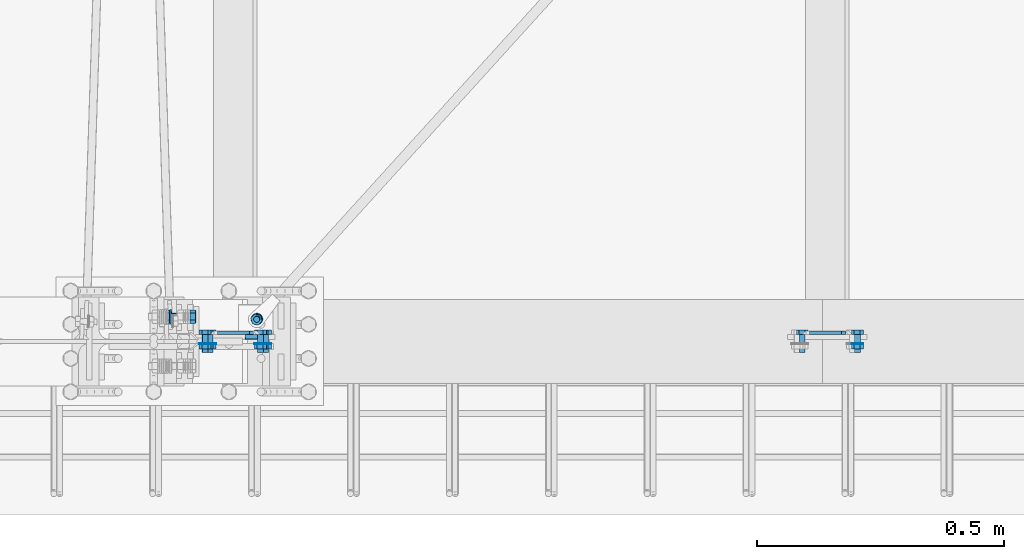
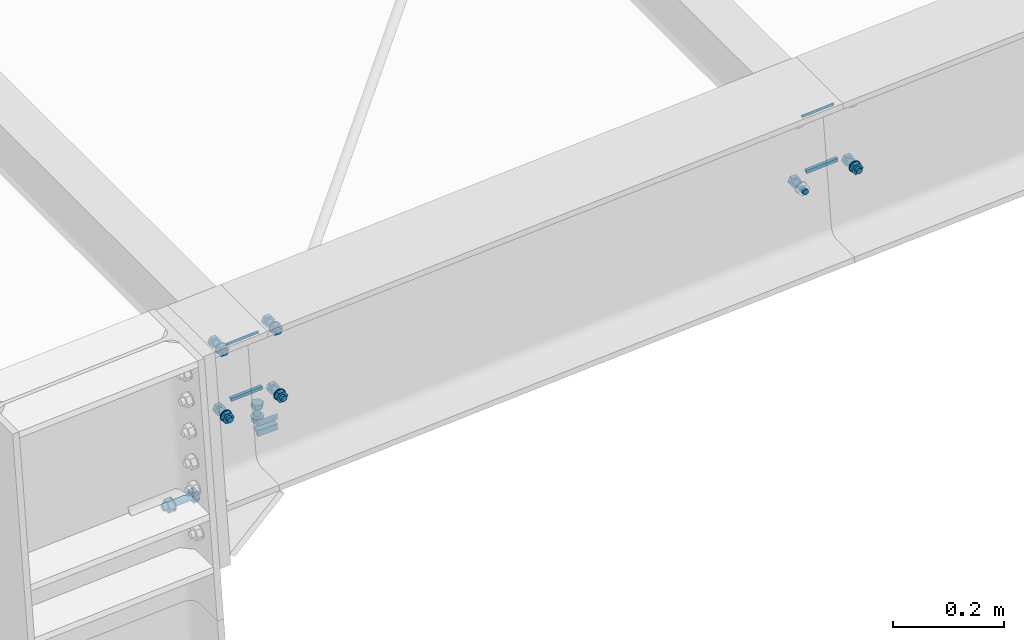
# One storey, part 29 of 72: 30 mechanical fasteners, 10 fasteners.
"""IFC4 building model written with IfcOpenShell, lengths in metres."""

from ifc_helpers import new_model, si_unit, frame, origin_with_axes, place, context, project, spatial, polyline, outline, extrude, type_object, element, save


model = new_model("IFC4")

# Units and contexts
model_context = context("Model", 3, precision=1e-05, world=origin_with_axes())
ifc_project = project(units=[si_unit("LENGTHUNIT", "METRE"), si_unit("AREAUNIT", "SQUARE_METRE"), si_unit("VOLUMEUNIT", "CUBIC_METRE"), si_unit("MASSUNIT", "GRAM", prefix="KILO"), si_unit("TIMEUNIT", "SECOND"), si_unit("PLANEANGLEUNIT", "RADIAN"), si_unit("SOLIDANGLEUNIT", "STERADIAN"), si_unit("THERMODYNAMICTEMPERATUREUNIT", "DEGREE_CELSIUS")], contexts=[model_context])

# Site, building, storey
placement_1 = place(None, origin_with_axes())
site = spatial("IfcSite", under=ifc_project, at=placement_1, Name="Italia", CompositionType="ELEMENT")
building = spatial("IfcBuilding", under=site, at=placement_1, Name="Pensilina", CompositionType="ELEMENT")
storey = spatial("IfcBuildingStorey", under=building, at=placement_1, Name="Storey 0", CompositionType="ELEMENT", Elevation=0.0)

# Mechanical fasteners
mechanical_fastener_type_1 = type_object("IfcMechanicalFastenerType", Name="Collegamento 0101_0201", PredefinedType="BOLT")
placement_2 = place(placement_1, origin_with_axes())
mechanical_fastener_1_placement = place(placement_2, origin_with_axes())
element("IfcMechanicalFastener", 1, at=mechanical_fastener_1_placement, inside=storey, type_object=mechanical_fastener_type_1, Name="Collegamento 0101_0201", NominalDiameter=0.0139999, context=model_context, shape_type="SweptSolid", body=[
    extrude(outline(polyline([(0.0, 0.0, 0.0), (-0.014, 0.0, 0.0), (-0.021, 0.0121245, 0.0), (-0.014, 0.0242486, 0.0), (0.0, 0.0242486, 0.0), (0.007, 0.0121245, 0.0), (0.0, 0.0, 0.0)])), frame((0.930596, 0.057, 3.40757), z_axis=(0.997648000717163, 0.0, 0.068545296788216), x_axis=(0.0, 1.0, 0.0)), (0.0, 0.0, 1.0), 0.0112),
])
mechanical_fastener_type_2 = type_object("IfcMechanicalFastenerType", Name="Collegamento 0101_0201", PredefinedType="BOLT")
mechanical_fastener_2_placement = place(placement_2, origin_with_axes())
element("IfcMechanicalFastener", 2, at=mechanical_fastener_2_placement, inside=storey, type_object=mechanical_fastener_type_2, Name="Collegamento 0101_0201", NominalDiameter=0.014, context=model_context, shape_type="SweptSolid", body=[
    extrude(outline(polyline([(0.0, 0.0, 0.0), (-0.000238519, -0.0018115, 0.0), (-0.000937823, -0.00349998, 0.0), (-0.00205025, -0.00494957, 0.0), (-0.0035, -0.00606203, 0.0), (-0.00518827, -0.00676131, 0.0), (-0.007, -0.00699997, 0.0), (-0.00881173, -0.00676131, 0.0), (-0.0105, -0.00606203, 0.0), (-0.0119497, -0.00494957, 0.0), (-0.0130622, -0.00349998, 0.0), (-0.0137615, -0.0018115, 0.0), (-0.014, 0.0, 0.0), (-0.0137615, 0.00181174, 0.0), (-0.0130622, 0.00350022, 0.0), (-0.0119497, 0.00494981, 0.0), (-0.0105, 0.00606227, 0.0), (-0.00881173, 0.00676155, 0.0), (-0.007, 0.00699997, 0.0), (-0.00518827, 0.00676155, 0.0), (-0.0035, 0.00606227, 0.0), (-0.00205025, 0.00494981, 0.0), (-0.000937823, 0.00350022, 0.0), (-0.000238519, 0.00181174, 0.0), (0.0, 0.0, 0.0)])), frame((0.870405, 0.057, 3.41559), z_axis=(0.997648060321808, 0.0, 0.068544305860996), x_axis=(0.0, 1.0, 0.0)), (0.0, 0.0, 1.0), 0.0595),
])
mechanical_fastener_type_3 = type_object("IfcMechanicalFastenerType", Name="Collegamento 0101_0201", PredefinedType="BOLT")
mechanical_fastener_3_placement = place(placement_2, origin_with_axes())
element("IfcMechanicalFastener", 3, at=mechanical_fastener_3_placement, inside=storey, type_object=mechanical_fastener_type_3, Name="Collegamento 0101_0201", NominalDiameter=0.014, context=model_context, shape_type="SweptSolid", body=[
    extrude(outline(polyline([(0.0, 0.0, 0.0), (-0.014, 0.0, 0.0), (-0.021, 0.0121243, 0.0), (-0.014, 0.0242488, 0.0), (0.0, 0.0242488, 0.0), (0.007, 0.0121243, 0.0), (0.0, 0.0, 0.0)])), frame((0.879017, 0.057, 3.40403), z_axis=(0.997648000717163, 0.0, 0.068545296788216), x_axis=(0.0, 1.0, 0.0)), (0.0, 0.0, 1.0), 0.0112),
])
mechanical_fastener_type_4 = type_object("IfcMechanicalFastenerType", Name="Collegamento 0101_0201", PredefinedType="BOLT")
mechanical_fastener_4_placement = place(placement_2, origin_with_axes())
element("IfcMechanicalFastener", 4, at=mechanical_fastener_4_placement, inside=storey, type_object=mechanical_fastener_type_4, Name="Collegamento 0101_0201", NominalDiameter=0.028, context=model_context, shape_type="SweptSolid", body=[
    extrude(outline(polyline([(0.0, 0.0, 0.0), (-0.000477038, -0.00362349, 0.0), (-0.00187564, -0.00699997, 0.0), (-0.0041005, -0.00989962, 0.0), (-0.007, -0.0121245, 0.0), (-0.0103765, -0.0135231, 0.0), (-0.014, -0.0139999, 0.0), (-0.0176235, -0.0135231, 0.0), (-0.021, -0.0121245, 0.0), (-0.0238995, -0.00989962, 0.0), (-0.0261244, -0.00699997, 0.0), (-0.027523, -0.00362349, 0.0), (-0.028, 0.0, 0.0), (-0.027523, 0.00362349, 0.0), (-0.0261244, 0.00699997, 0.0), (-0.0238995, 0.00989962, 0.0), (-0.021, 0.0121243, 0.0), (-0.0176235, 0.0135229, 0.0), (-0.014, 0.0139999, 0.0), (-0.0103765, 0.0135229, 0.0), (-0.007, 0.0121243, 0.0), (-0.0041005, 0.00989962, 0.0), (-0.00187564, 0.00699997, 0.0), (-0.000477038, 0.00362349, 0.0), (0.0, 0.0, 0.0)])), frame((0.88936, 0.064, 3.41689), z_axis=(0.997648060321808, 0.0, 0.06854435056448), x_axis=(0.0, 1.0, 0.0)), (0.0, 0.0, 1.0), 0.00200003),
])

# Fasteners
fastener_type_1 = type_object("IfcFastenerType", Name="Collegamento 0201_0202", PredefinedType="WELD")
fastener_1_placement = place(placement_2, origin_with_axes())
element("IfcFastener", 5, at=fastener_1_placement, inside=storey, type_object=fastener_type_1, Name="Collegamento 0201_0202", context=model_context, shape_type="SweptSolid", body=[
    extrude(outline(polyline([(0.0, 0.0, 0.0), (0.00717336, -0.00695801, 0.0), (0.0, -0.00695801, 0.0), (0.0, 0.0, 0.0)])), frame((0.98357, 0.01395, 3.76111), z_axis=(0.997731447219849, 0.0, 0.06731989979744), x_axis=(0.0, 1.0, 0.0)), (0.0, 0.0, 1.0), 0.0661),
])
fastener_type_2 = type_object("IfcFastenerType", Name="Collegamento 0201_0202", PredefinedType="WELD")
fastener_2_placement = place(placement_2, origin_with_axes())
element("IfcFastener", 6, at=fastener_2_placement, inside=storey, type_object=fastener_type_2, Name="Collegamento 0201_0202", context=model_context, shape_type="SweptSolid", body=[
    extrude(outline(polyline([(0.0, 0.0, 0.0), (-0.00717336, 0.00695801, 0.0), (0.0, 0.00695801, 0.0), (0.0, 0.0, 0.0)])), frame((1.05853, 0.01395, 3.63205), z_axis=(-0.997731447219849, 0.0, -0.067319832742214), x_axis=(0.0, -1.0, 0.0)), (0.0, 0.0, 1.0), 0.0661),
])
fastener_type_3 = type_object("IfcFastenerType", Name="Collegamento 0201_0202", PredefinedType="WELD")
fastener_3_placement = place(placement_2, origin_with_axes())
element("IfcFastener", 7, at=fastener_3_placement, inside=storey, type_object=fastener_type_3, Name="Collegamento 0201_0202", context=model_context, shape_type="SweptSolid", body=[
    extrude(outline(polyline([(0.0, 0.0, 0.0), (0.00717336, -0.00695801, 0.0), (0.0, -0.00695801, 0.0), (0.0, 0.0, 0.0)])), frame((0.98357, 0.01395, 3.76111), z_axis=(0.997731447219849, 0.0, 0.06731989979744), x_axis=(0.0, 1.0, 0.0)), (0.0, 0.0, 1.0), 0.0661),
])
fastener_type_4 = type_object("IfcFastenerType", Name="Collegamento 0201_0202", PredefinedType="WELD")
fastener_4_placement = place(placement_2, origin_with_axes())
element("IfcFastener", 8, at=fastener_4_placement, inside=storey, type_object=fastener_type_4, Name="Collegamento 0201_0202", context=model_context, shape_type="SweptSolid", body=[
    extrude(outline(polyline([(0.0, 0.0, 0.0), (-0.00717336, 0.00695801, 0.0), (0.0, 0.00695801, 0.0), (0.0, 0.0, 0.0)])), frame((1.05853, 0.01395, 3.63205), z_axis=(-0.997731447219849, 0.0, -0.067319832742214), x_axis=(0.0, -1.0, 0.0)), (0.0, 0.0, 1.0), 0.0661),
])

# Mechanical fasteners
mechanical_fastener_type_5 = type_object("IfcMechanicalFastenerType", Name="Collegamento 0201_0202", PredefinedType="BOLT")
mechanical_fastener_5_placement = place(placement_2, origin_with_axes())
element("IfcMechanicalFastener", 9, at=mechanical_fastener_5_placement, inside=storey, type_object=mechanical_fastener_type_5, Name="Collegamento 0201_0202", NominalDiameter=0.0119999, context=model_context, shape_type="SweptSolid", body=[
    extrude(outline(polyline([(0.0, 0.0, 0.0), (-0.0119728, 0.000807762, 0.0), (-0.0172595, 0.0115805, 0.0), (-0.0105735, 0.0215452, 0.0), (0.00139928, 0.0207374, 0.0), (0.00668609, 0.0099647, 0.0), (0.0, 0.0, 0.0)])), frame((1.07675, 0.014, 3.61375), z_axis=(0.0, 1.0, 0.0), x_axis=(-1.0, 0.0, 0.0)), (0.0, 0.0, 1.0), 0.0096),
])
mechanical_fastener_type_6 = type_object("IfcMechanicalFastenerType", Name="Collegamento 0201_0202", PredefinedType="BOLT")
mechanical_fastener_6_placement = place(placement_2, origin_with_axes())
element("IfcMechanicalFastener", 10, at=mechanical_fastener_6_placement, inside=storey, type_object=mechanical_fastener_type_6, Name="Collegamento 0201_0202", NominalDiameter=0.012, context=model_context, shape_type="SweptSolid", body=[
    extrude(outline(polyline([(0.0, 0.0, 0.0), (-0.000204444, -0.00155282, 0.0), (-0.000803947, -0.00300002, 0.0), (-0.00175738, -0.00424266, 0.0), (-0.00300002, -0.00519609, 0.0), (-0.0044471, -0.00579548, 0.0), (-0.00600004, -0.00600004, 0.0), (-0.00755298, -0.00579548, 0.0), (-0.00900006, -0.00519609, 0.0), (-0.0102427, -0.00424266, 0.0), (-0.0111961, -0.00300002, 0.0), (-0.0117956, -0.00155282, 0.0), (-0.0120001, 0.0, 0.0), (-0.0117956, 0.00155282, 0.0), (-0.0111961, 0.00300002, 0.0), (-0.0102427, 0.00424266, 0.0), (-0.00900006, 0.00519609, 0.0), (-0.00755298, 0.00579548, 0.0), (-0.00600004, 0.00600004, 0.0), (-0.0044471, 0.00579548, 0.0), (-0.00300002, 0.00519609, 0.0), (-0.00175738, 0.00424266, 0.0), (-0.000803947, 0.00300002, 0.0), (-0.000204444, 0.00155282, 0.0), (0.0, 0.0, 0.0)])), frame((1.07604, -0.022, 3.62452), z_axis=(0.0, 1.0, 0.0), x_axis=(-1.0, 0.0, 0.0)), (0.0, 0.0, 1.0), 0.036),
])
mechanical_fastener_type_7 = type_object("IfcMechanicalFastenerType", Name="Collegamento 0201_0202", PredefinedType="BOLT")
mechanical_fastener_7_placement = place(placement_2, origin_with_axes())
element("IfcMechanicalFastener", 11, at=mechanical_fastener_7_placement, inside=storey, type_object=mechanical_fastener_type_7, Name="Collegamento 0201_0202", NominalDiameter=0.0119999, context=model_context, shape_type="SweptSolid", body=[
    extrude(outline(polyline([(0.0, 0.0, 0.0), (-0.0119728, 0.000807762, 0.0), (-0.0172595, 0.0115805, 0.0), (-0.0105735, 0.0215452, 0.0), (0.00139928, 0.0207374, 0.0), (0.00668609, 0.0099647, 0.0), (0.0, 0.0, 0.0)])), frame((1.07675, -0.0156, 3.61375), z_axis=(0.0, 1.0, 0.0), x_axis=(-1.0, 0.0, 0.0)), (0.0, 0.0, 1.0), 0.0096),
])
mechanical_fastener_type_8 = type_object("IfcMechanicalFastenerType", Name="Collegamento 0201_0202", PredefinedType="BOLT")
mechanical_fastener_8_placement = place(placement_2, origin_with_axes())
element("IfcMechanicalFastener", 12, at=mechanical_fastener_8_placement, inside=storey, type_object=mechanical_fastener_type_8, Name="Collegamento 0201_0202", NominalDiameter=0.024, context=model_context, shape_type="SweptSolid", body=[
    extrude(outline(polyline([(0.0, 0.0, 0.0), (-0.000408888, -0.00310588, 0.0), (-0.00160766, -0.00600004, 0.0), (-0.00351465, -0.00848532, 0.0), (-0.00599992, -0.0103922, 0.0), (-0.00889409, -0.0115912, 0.0), (-0.012, -0.0120001, 0.0), (-0.0151058, -0.0115912, 0.0), (-0.018, -0.0103922, 0.0), (-0.0204853, -0.00848532, 0.0), (-0.0223923, -0.00600004, 0.0), (-0.023591, -0.00310588, 0.0), (-0.0239999, 0.0, 0.0), (-0.023591, 0.00310588, 0.0), (-0.0223923, 0.00600004, 0.0), (-0.0204853, 0.00848532, 0.0), (-0.018, 0.0103922, 0.0), (-0.0151058, 0.0115912, 0.0), (-0.012, 0.0120001, 0.0), (-0.00889409, 0.0115912, 0.0), (-0.00599992, 0.0103922, 0.0), (-0.00351465, 0.00848532, 0.0), (-0.00160766, 0.00600004, 0.0), (-0.000408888, 0.00310588, 0.0), (0.0, 0.0, 0.0)])), frame((1.07004, -0.006, 3.62452), z_axis=(0.0, 1.0, 0.0), x_axis=(-1.0, 0.0, 0.0)), (0.0, 0.0, 1.0), 0.002),
])
mechanical_fastener_type_9 = type_object("IfcMechanicalFastenerType", Name="Collegamento 0201_0202", PredefinedType="BOLT")
mechanical_fastener_9_placement = place(placement_2, origin_with_axes())
element("IfcMechanicalFastener", 13, at=mechanical_fastener_9_placement, inside=storey, type_object=mechanical_fastener_type_9, Name="Collegamento 0201_0202", NominalDiameter=0.0119999, context=model_context, shape_type="SweptSolid", body=[
    extrude(outline(polyline([(0.0, 0.0, 0.0), (-0.0119728, 0.000807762, 0.0), (-0.0172596, 0.0115805, 0.0), (-0.0105736, 0.0215452, 0.0), (0.00139916, 0.0207374, 0.0), (0.00668597, 0.0099647, 0.0), (0.0, 0.0, 0.0)])), frame((0.965006, 0.014, 3.60621), z_axis=(0.0, 1.0, 0.0), x_axis=(-1.0, 0.0, 0.0)), (0.0, 0.0, 1.0), 0.0096),
])
mechanical_fastener_type_10 = type_object("IfcMechanicalFastenerType", Name="Collegamento 0201_0202", PredefinedType="BOLT")
mechanical_fastener_10_placement = place(placement_2, origin_with_axes())
element("IfcMechanicalFastener", 14, at=mechanical_fastener_10_placement, inside=storey, type_object=mechanical_fastener_type_10, Name="Collegamento 0201_0202", NominalDiameter=0.012, context=model_context, shape_type="SweptSolid", body=[
    extrude(outline(polyline([(0.0, 0.0, 0.0), (-0.000204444, -0.00155282, 0.0), (-0.000803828, -0.00300002, 0.0), (-0.00175732, -0.00424266, 0.0), (-0.00299996, -0.00519609, 0.0), (-0.00444704, -0.00579548, 0.0), (-0.00599998, -0.00600004, 0.0), (-0.00755292, -0.00579548, 0.0), (-0.009, -0.00519609, 0.0), (-0.0102426, -0.00424266, 0.0), (-0.0111961, -0.00300002, 0.0), (-0.0117955, -0.00155282, 0.0), (-0.012, 0.0, 0.0), (-0.0117955, 0.00155282, 0.0), (-0.0111961, 0.00300002, 0.0), (-0.0102426, 0.00424266, 0.0), (-0.009, 0.00519609, 0.0), (-0.00755292, 0.00579548, 0.0), (-0.00599998, 0.00600004, 0.0), (-0.00444704, 0.00579548, 0.0), (-0.00299996, 0.00519609, 0.0), (-0.00175732, 0.00424266, 0.0), (-0.000803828, 0.00300002, 0.0), (-0.000204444, 0.00155282, 0.0), (0.0, 0.0, 0.0)])), frame((0.964293, -0.022, 3.61698), z_axis=(0.0, 1.0, 0.0), x_axis=(-1.0, 0.0, 0.0)), (0.0, 0.0, 1.0), 0.036),
])
mechanical_fastener_type_11 = type_object("IfcMechanicalFastenerType", Name="Collegamento 0201_0202", PredefinedType="BOLT")
mechanical_fastener_11_placement = place(placement_2, origin_with_axes())
element("IfcMechanicalFastener", 15, at=mechanical_fastener_11_placement, inside=storey, type_object=mechanical_fastener_type_11, Name="Collegamento 0201_0202", NominalDiameter=0.0119999, context=model_context, shape_type="SweptSolid", body=[
    extrude(outline(polyline([(0.0, 0.0, 0.0), (-0.0119728, 0.000807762, 0.0), (-0.0172596, 0.0115805, 0.0), (-0.0105736, 0.0215452, 0.0), (0.00139916, 0.0207374, 0.0), (0.00668597, 0.0099647, 0.0), (0.0, 0.0, 0.0)])), frame((0.965006, -0.0156, 3.60621), z_axis=(0.0, 1.0, 0.0), x_axis=(-1.0, 0.0, 0.0)), (0.0, 0.0, 1.0), 0.0096),
])
mechanical_fastener_type_12 = type_object("IfcMechanicalFastenerType", Name="Collegamento 0201_0202", PredefinedType="BOLT")
mechanical_fastener_12_placement = place(placement_2, origin_with_axes())
element("IfcMechanicalFastener", 16, at=mechanical_fastener_12_placement, inside=storey, type_object=mechanical_fastener_type_12, Name="Collegamento 0201_0202", NominalDiameter=0.024, context=model_context, shape_type="SweptSolid", body=[
    extrude(outline(polyline([(0.0, 0.0, 0.0), (-0.000408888, -0.00310588, 0.0), (-0.00160772, -0.00600004, 0.0), (-0.00351477, -0.00848532, 0.0), (-0.00600004, -0.0103922, 0.0), (-0.00889421, -0.0115912, 0.0), (-0.012, -0.0120001, 0.0), (-0.0151058, -0.0115912, 0.0), (-0.018, -0.0103922, 0.0), (-0.0204853, -0.00848532, 0.0), (-0.0223923, -0.00600004, 0.0), (-0.0235912, -0.00310588, 0.0), (-0.024, 0.0, 0.0), (-0.0235912, 0.00310588, 0.0), (-0.0223923, 0.00600004, 0.0), (-0.0204853, 0.00848532, 0.0), (-0.018, 0.0103922, 0.0), (-0.0151058, 0.0115912, 0.0), (-0.012, 0.0120001, 0.0), (-0.00889421, 0.0115912, 0.0), (-0.00600004, 0.0103922, 0.0), (-0.00351477, 0.00848532, 0.0), (-0.00160772, 0.00600004, 0.0), (-0.000408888, 0.00310588, 0.0), (0.0, 0.0, 0.0)])), frame((0.958293, -0.006, 3.61698), z_axis=(0.0, 1.0, 0.0), x_axis=(-1.0, 0.0, 0.0)), (0.0, 0.0, 1.0), 0.002),
])
mechanical_fastener_type_13 = type_object("IfcMechanicalFastenerType", Name="Collegamento 0201_0202", PredefinedType="BOLT")
mechanical_fastener_13_placement = place(placement_2, origin_with_axes())
element("IfcMechanicalFastener", 17, at=mechanical_fastener_13_placement, inside=storey, type_object=mechanical_fastener_type_13, Name="Collegamento 0201_0202", NominalDiameter=0.0119999, context=model_context, shape_type="SweptSolid", body=[
    extrude(outline(polyline([(0.0, 0.0, 0.0), (-0.0119728, 0.000807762, 0.0), (-0.0172595, 0.0115805, 0.0), (-0.0105735, 0.0215452, 0.0), (0.00139928, 0.0207374, 0.0), (0.00668609, 0.0099647, 0.0), (0.0, 0.0, 0.0)])), frame((1.06652, 0.014, 3.7654), z_axis=(0.0, 1.0, 0.0), x_axis=(-1.0, 0.0, 0.0)), (0.0, 0.0, 1.0), 0.0096),
])
mechanical_fastener_type_14 = type_object("IfcMechanicalFastenerType", Name="Collegamento 0201_0202", PredefinedType="BOLT")
mechanical_fastener_14_placement = place(placement_2, origin_with_axes())
element("IfcMechanicalFastener", 18, at=mechanical_fastener_14_placement, inside=storey, type_object=mechanical_fastener_type_14, Name="Collegamento 0201_0202", NominalDiameter=0.012, context=model_context, shape_type="SweptSolid", body=[
    extrude(outline(polyline([(0.0, 0.0, 0.0), (-0.000204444, -0.00155282, 0.0), (-0.000803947, -0.00300002, 0.0), (-0.00175738, -0.00424266, 0.0), (-0.00300002, -0.00519609, 0.0), (-0.0044471, -0.00579548, 0.0), (-0.00600004, -0.00600004, 0.0), (-0.00755298, -0.00579548, 0.0), (-0.00900006, -0.00519609, 0.0), (-0.0102427, -0.00424266, 0.0), (-0.0111961, -0.00300002, 0.0), (-0.0117956, -0.00155282, 0.0), (-0.0120001, 0.0, 0.0), (-0.0117956, 0.00155282, 0.0), (-0.0111961, 0.00300002, 0.0), (-0.0102427, 0.00424266, 0.0), (-0.00900006, 0.00519609, 0.0), (-0.00755298, 0.00579548, 0.0), (-0.00600004, 0.00600004, 0.0), (-0.0044471, 0.00579548, 0.0), (-0.00300002, 0.00519609, 0.0), (-0.00175738, 0.00424266, 0.0), (-0.000803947, 0.00300002, 0.0), (-0.000204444, 0.00155282, 0.0), (0.0, 0.0, 0.0)])), frame((1.06581, -0.022, 3.77618), z_axis=(0.0, 1.0, 0.0), x_axis=(-1.0, 0.0, 0.0)), (0.0, 0.0, 1.0), 0.036),
])
mechanical_fastener_type_15 = type_object("IfcMechanicalFastenerType", Name="Collegamento 0201_0202", PredefinedType="BOLT")
mechanical_fastener_15_placement = place(placement_2, origin_with_axes())
element("IfcMechanicalFastener", 19, at=mechanical_fastener_15_placement, inside=storey, type_object=mechanical_fastener_type_15, Name="Collegamento 0201_0202", NominalDiameter=0.0119999, context=model_context, shape_type="SweptSolid", body=[
    extrude(outline(polyline([(0.0, 0.0, 0.0), (-0.0119728, 0.000807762, 0.0), (-0.0172595, 0.0115805, 0.0), (-0.0105735, 0.0215452, 0.0), (0.00139928, 0.0207374, 0.0), (0.00668609, 0.0099647, 0.0), (0.0, 0.0, 0.0)])), frame((1.06652, -0.0156, 3.7654), z_axis=(0.0, 1.0, 0.0), x_axis=(-1.0, 0.0, 0.0)), (0.0, 0.0, 1.0), 0.0096),
])
mechanical_fastener_type_16 = type_object("IfcMechanicalFastenerType", Name="Collegamento 0201_0202", PredefinedType="BOLT")
mechanical_fastener_16_placement = place(placement_2, origin_with_axes())
element("IfcMechanicalFastener", 20, at=mechanical_fastener_16_placement, inside=storey, type_object=mechanical_fastener_type_16, Name="Collegamento 0201_0202", NominalDiameter=0.024, context=model_context, shape_type="SweptSolid", body=[
    extrude(outline(polyline([(0.0, 0.0, 0.0), (-0.000408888, -0.00310588, 0.0), (-0.00160766, -0.00600004, 0.0), (-0.00351465, -0.00848532, 0.0), (-0.00599992, -0.0103922, 0.0), (-0.00889409, -0.0115912, 0.0), (-0.012, -0.0120001, 0.0), (-0.0151058, -0.0115912, 0.0), (-0.018, -0.0103922, 0.0), (-0.0204853, -0.00848532, 0.0), (-0.0223923, -0.00600004, 0.0), (-0.023591, -0.00310588, 0.0), (-0.0239999, 0.0, 0.0), (-0.023591, 0.00310588, 0.0), (-0.0223923, 0.00600004, 0.0), (-0.0204853, 0.00848532, 0.0), (-0.018, 0.0103922, 0.0), (-0.0151058, 0.0115912, 0.0), (-0.012, 0.0120001, 0.0), (-0.00889409, 0.0115912, 0.0), (-0.00599992, 0.0103922, 0.0), (-0.00351465, 0.00848532, 0.0), (-0.00160766, 0.00600004, 0.0), (-0.000408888, 0.00310588, 0.0), (0.0, 0.0, 0.0)])), frame((1.05981, -0.006, 3.77618), z_axis=(0.0, 1.0, 0.0), x_axis=(-1.0, 0.0, 0.0)), (0.0, 0.0, 1.0), 0.002),
])
mechanical_fastener_type_17 = type_object("IfcMechanicalFastenerType", Name="Collegamento 0201_0202", PredefinedType="BOLT")
mechanical_fastener_17_placement = place(placement_2, origin_with_axes())
element("IfcMechanicalFastener", 21, at=mechanical_fastener_17_placement, inside=storey, type_object=mechanical_fastener_type_17, Name="Collegamento 0201_0202", NominalDiameter=0.0119999, context=model_context, shape_type="SweptSolid", body=[
    extrude(outline(polyline([(0.0, 0.0, 0.0), (-0.0119728, 0.000807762, 0.0), (-0.0172596, 0.0115805, 0.0), (-0.0105736, 0.0215452, 0.0), (0.00139916, 0.0207374, 0.0), (0.00668597, 0.0099647, 0.0), (0.0, 0.0, 0.0)])), frame((0.954773, 0.014, 3.75786), z_axis=(0.0, 1.0, 0.0), x_axis=(-1.0, 0.0, 0.0)), (0.0, 0.0, 1.0), 0.0096),
])
mechanical_fastener_type_18 = type_object("IfcMechanicalFastenerType", Name="Collegamento 0201_0202", PredefinedType="BOLT")
mechanical_fastener_18_placement = place(placement_2, origin_with_axes())
element("IfcMechanicalFastener", 22, at=mechanical_fastener_18_placement, inside=storey, type_object=mechanical_fastener_type_18, Name="Collegamento 0201_0202", NominalDiameter=0.012, context=model_context, shape_type="SweptSolid", body=[
    extrude(outline(polyline([(0.0, 0.0, 0.0), (-0.000204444, -0.00155282, 0.0), (-0.000803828, -0.00300002, 0.0), (-0.00175732, -0.00424266, 0.0), (-0.00299996, -0.00519609, 0.0), (-0.00444704, -0.00579548, 0.0), (-0.00599998, -0.00600004, 0.0), (-0.00755292, -0.00579548, 0.0), (-0.009, -0.00519609, 0.0), (-0.0102426, -0.00424266, 0.0), (-0.0111961, -0.00300002, 0.0), (-0.0117955, -0.00155282, 0.0), (-0.012, 0.0, 0.0), (-0.0117955, 0.00155282, 0.0), (-0.0111961, 0.00300002, 0.0), (-0.0102426, 0.00424266, 0.0), (-0.009, 0.00519609, 0.0), (-0.00755292, 0.00579548, 0.0), (-0.00599998, 0.00600004, 0.0), (-0.00444704, 0.00579548, 0.0), (-0.00299996, 0.00519609, 0.0), (-0.00175732, 0.00424266, 0.0), (-0.000803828, 0.00300002, 0.0), (-0.000204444, 0.00155282, 0.0), (0.0, 0.0, 0.0)])), frame((0.95406, -0.022, 3.76864), z_axis=(0.0, 1.0, 0.0), x_axis=(-1.0, 0.0, 0.0)), (0.0, 0.0, 1.0), 0.036),
])
mechanical_fastener_type_19 = type_object("IfcMechanicalFastenerType", Name="Collegamento 0201_0202", PredefinedType="BOLT")
mechanical_fastener_19_placement = place(placement_2, origin_with_axes())
element("IfcMechanicalFastener", 23, at=mechanical_fastener_19_placement, inside=storey, type_object=mechanical_fastener_type_19, Name="Collegamento 0201_0202", NominalDiameter=0.0119999, context=model_context, shape_type="SweptSolid", body=[
    extrude(outline(polyline([(0.0, 0.0, 0.0), (-0.0119728, 0.000807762, 0.0), (-0.0172596, 0.0115805, 0.0), (-0.0105736, 0.0215452, 0.0), (0.00139916, 0.0207374, 0.0), (0.00668597, 0.0099647, 0.0), (0.0, 0.0, 0.0)])), frame((0.954773, -0.0156, 3.75786), z_axis=(0.0, 1.0, 0.0), x_axis=(-1.0, 0.0, 0.0)), (0.0, 0.0, 1.0), 0.0096),
])
mechanical_fastener_type_20 = type_object("IfcMechanicalFastenerType", Name="Collegamento 0201_0202", PredefinedType="BOLT")
mechanical_fastener_20_placement = place(placement_2, origin_with_axes())
element("IfcMechanicalFastener", 24, at=mechanical_fastener_20_placement, inside=storey, type_object=mechanical_fastener_type_20, Name="Collegamento 0201_0202", NominalDiameter=0.024, context=model_context, shape_type="SweptSolid", body=[
    extrude(outline(polyline([(0.0, 0.0, 0.0), (-0.000408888, -0.00310588, 0.0), (-0.00160772, -0.00600004, 0.0), (-0.00351477, -0.00848532, 0.0), (-0.00600004, -0.0103922, 0.0), (-0.00889421, -0.0115912, 0.0), (-0.012, -0.0120001, 0.0), (-0.0151058, -0.0115912, 0.0), (-0.018, -0.0103922, 0.0), (-0.0204853, -0.00848532, 0.0), (-0.0223923, -0.00600004, 0.0), (-0.0235912, -0.00310588, 0.0), (-0.024, 0.0, 0.0), (-0.0235912, 0.00310588, 0.0), (-0.0223923, 0.00600004, 0.0), (-0.0204853, 0.00848532, 0.0), (-0.018, 0.0103922, 0.0), (-0.0151058, 0.0115912, 0.0), (-0.012, 0.0120001, 0.0), (-0.00889421, 0.0115912, 0.0), (-0.00600004, 0.0103922, 0.0), (-0.00351477, 0.00848532, 0.0), (-0.00160772, 0.00600004, 0.0), (-0.000408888, 0.00310588, 0.0), (0.0, 0.0, 0.0)])), frame((0.94806, -0.006, 3.76864), z_axis=(0.0, 1.0, 0.0), x_axis=(-1.0, 0.0, 0.0)), (0.0, 0.0, 1.0), 0.002),
])
mechanical_fastener_type_21 = type_object("IfcMechanicalFastenerType", Name="Collegamento 0201_0602", PredefinedType="BOLT")
mechanical_fastener_21_placement = place(placement_2, origin_with_axes())
element("IfcMechanicalFastener", 25, at=mechanical_fastener_21_placement, inside=storey, type_object=mechanical_fastener_type_21, Name="Collegamento 0201_0602", NominalDiameter=0.012, context=model_context, shape_type="SweptSolid", body=[
    extrude(outline(polyline([(0.0, 0.0, 0.0), (-8.34465e-07, -0.012, 0.0), (0.0103909, -0.0180008, 0.0), (0.0207838, -0.0120015, 0.0), (0.0207846, -1.60933e-06, 0.0), (0.0103928, 0.00599927, 0.0), (0.0, 0.0, 0.0)])), frame((1.06045, 0.055947, 3.57463), z_axis=(-0.030969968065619, -0.034152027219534, 0.998936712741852), x_axis=(0.740774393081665, -0.671753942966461, 0.0)), (0.0, 0.0, 1.0), 0.00959988),
])
mechanical_fastener_type_22 = type_object("IfcMechanicalFastenerType", Name="Collegamento 0201_0602", PredefinedType="BOLT")
mechanical_fastener_22_placement = place(placement_2, origin_with_axes())
element("IfcMechanicalFastener", 26, at=mechanical_fastener_22_placement, inside=storey, type_object=mechanical_fastener_type_22, Name="Collegamento 0201_0602", NominalDiameter=0.012, context=model_context, shape_type="SweptSolid", body=[
    extrude(outline(polyline([(0.0, 0.0, 0.0), (-0.000204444, -0.00155288, 0.0), (-0.000803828, -0.00299996, 0.0), (-0.00175732, -0.0042426, 0.0), (-0.00300008, -0.00519621, 0.0), (-0.0044471, -0.0057956, 0.0), (-0.00599998, -0.00599998, 0.0), (-0.00755292, -0.0057956, 0.0), (-0.009, -0.00519609, 0.0), (-0.0102426, -0.0042426, 0.0), (-0.0111961, -0.00300002, 0.0), (-0.0117955, -0.00155288, 0.0), (-0.012, 0.0, 0.0), (-0.0117956, 0.00155288, 0.0), (-0.0111962, 0.00300002, 0.0), (-0.0102427, 0.0042426, 0.0), (-0.00899994, 0.00519621, 0.0), (-0.00755292, 0.0057956, 0.0), (-0.00600004, 0.00599998, 0.0), (-0.0044471, 0.0057956, 0.0), (-0.00300008, 0.00519609, 0.0), (-0.00175738, 0.0042426, 0.0), (-0.000803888, 0.00300002, 0.0), (-0.000204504, 0.00155288, 0.0), (0.0, 0.0, 0.0)])), frame((1.06975, 0.0417928, 3.53639), z_axis=(-0.03097246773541, -0.034151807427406, 0.998936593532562), x_axis=(0.74074524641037, -0.671786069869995, 0.0)), (0.0, 0.0, 1.0), 0.038),
])
mechanical_fastener_type_23 = type_object("IfcMechanicalFastenerType", Name="Collegamento 0201_0602", PredefinedType="BOLT")
mechanical_fastener_23_placement = place(placement_2, origin_with_axes())
element("IfcMechanicalFastener", 27, at=mechanical_fastener_23_placement, inside=storey, type_object=mechanical_fastener_type_23, Name="Collegamento 0201_0602", NominalDiameter=0.012, context=model_context, shape_type="SweptSolid", body=[
    extrude(outline(polyline([(0.0, 0.0, 0.0), (1.49012e-06, -0.012, 0.0), (0.0103945, -0.0179987, 0.0), (0.020786, -0.0119975, 0.0), (0.0207846, 2.6226e-06, 0.0), (0.0103915, 0.00600129, 0.0), (0.0, 0.0, 0.0)])), frame((1.06143, 0.0570262, 3.54306), z_axis=(-0.030982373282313, -0.034152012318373, 0.998936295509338), x_axis=(0.740640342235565, -0.671901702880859, 0.0)), (0.0, 0.0, 1.0), 0.00959988),
])
mechanical_fastener_type_24 = type_object("IfcMechanicalFastenerType", Name="Collegamento 0201_0602", PredefinedType="BOLT")
mechanical_fastener_24_placement = place(placement_2, origin_with_axes())
element("IfcMechanicalFastener", 28, at=mechanical_fastener_24_placement, inside=storey, type_object=mechanical_fastener_type_24, Name="Collegamento 0201_0602", NominalDiameter=0.024, context=model_context, shape_type="SweptSolid", body=[
    extrude(outline(polyline([(0.0, 0.0, 0.0), (-0.000408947, -0.00310582, 0.0), (-0.00160772, -0.00599998, 0.0), (-0.00351465, -0.0084852, 0.0), (-0.00599998, -0.0103922, 0.0), (-0.00889415, -0.0115911, 0.0), (-0.012, -0.012, 0.0), (-0.0151058, -0.0115911, 0.0), (-0.018, -0.0103923, 0.0), (-0.0204853, -0.00848526, 0.0), (-0.0223923, -0.00599992, 0.0), (-0.0235911, -0.00310582, 0.0), (-0.0239999, 0.0, 0.0), (-0.023591, 0.00310588, 0.0), (-0.0223923, 0.00600004, 0.0), (-0.0204853, 0.00848526, 0.0), (-0.018, 0.0103923, 0.0), (-0.0151058, 0.0115911, 0.0), (-0.012, 0.012, 0.0), (-0.00889421, 0.0115911, 0.0), (-0.00599998, 0.0103924, 0.0), (-0.00351471, 0.00848532, 0.0), (-0.00160772, 0.00599998, 0.0), (-0.000408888, 0.00310588, 0.0), (0.0, 0.0, 0.0)])), frame((1.0737, 0.0372212, 3.55238), z_axis=(-0.030937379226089, -0.034156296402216, 0.998937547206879), x_axis=(0.741167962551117, -0.671319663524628, 0.0)), (0.0, 0.0, 1.0), 0.00199983),
])

# Fasteners
fastener_type_5 = type_object("IfcFastenerType", Name="Collegamento 0201_0602", PredefinedType="WELD")
fastener_5_placement = place(placement_2, origin_with_axes())
element("IfcFastener", 29, at=fastener_5_placement, inside=storey, type_object=fastener_type_5, Name="Collegamento 0201_0602", context=model_context, shape_type="SweptSolid", body=[
    extrude(outline(polyline([(0.0, 0.0, 0.0), (-0.0136956, 0.0142241, 0.0), (0.000469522, 0.0137401, 0.0), (0.0, 0.0, 0.0)])), frame((1.08428, 0.00493012, 3.53989), z_axis=(-0.99951958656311, -3.31823e-08, -0.030994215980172), x_axis=(3.3198248e-08, -1.0, 0.0)), (0.0, 0.0, 1.0), 0.0421003),
])
fastener_type_6 = type_object("IfcFastenerType", Name="Collegamento 0201_0602", PredefinedType="WELD")
fastener_6_placement = place(placement_2, origin_with_axes())
element("IfcFastener", 30, at=fastener_6_placement, inside=storey, type_object=fastener_type_6, Name="Collegamento 0201_0602", context=model_context, shape_type="SweptSolid", body=[
    extrude(outline(polyline([(0.0, 0.0, 0.0), (0.0146346, -0.0132563, 0.0), (0.000469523, -0.0137403, 0.0), (0.0, 0.0, 0.0)])), frame((1.04104, 0.00365298, 3.57594), z_axis=(0.999519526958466, -1.54852486e-07, 0.03099456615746), x_axis=(1.54926923e-07, 1.0, 0.0)), (0.0, 0.0, 1.0), 0.0420998),
])
fastener_type_7 = type_object("IfcFastenerType", Name="Collegamento 0301_0302", PredefinedType="WELD")
fastener_7_placement = place(placement_2, origin_with_axes())
element("IfcFastener", 31, at=fastener_7_placement, inside=storey, type_object=fastener_type_7, Name="Collegamento 0301_0302", context=model_context, shape_type="SweptSolid", body=[
    extrude(outline(polyline([(0.0, 0.0, 0.0), (0.00717336, -0.00695801, 0.0), (0.0, -0.00695801, 0.0), (0.0, 0.0, 0.0)])), frame((2.18079, 0.01395, 3.84336), z_axis=(0.997731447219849, 0.0, 0.067319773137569), x_axis=(0.0, 1.0, 0.0)), (0.0, 0.0, 1.0), 0.0661001),
])
fastener_type_8 = type_object("IfcFastenerType", Name="Collegamento 0301_0302", PredefinedType="WELD")
fastener_8_placement = place(placement_2, origin_with_axes())
element("IfcFastener", 32, at=fastener_8_placement, inside=storey, type_object=fastener_type_8, Name="Collegamento 0301_0302", context=model_context, shape_type="SweptSolid", body=[
    extrude(outline(polyline([(0.0, 0.0, 0.0), (-0.00717336, 0.00695801, 0.0), (0.0, 0.00695801, 0.0), (0.0, 0.0, 0.0)])), frame((2.25575, 0.01395, 3.7143), z_axis=(-0.997731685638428, 0.0, -0.067316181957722), x_axis=(0.0, -1.0, 0.0)), (0.0, 0.0, 1.0), 0.0661001),
])
fastener_type_9 = type_object("IfcFastenerType", Name="Collegamento 0301_0302", PredefinedType="WELD")
fastener_9_placement = place(placement_2, origin_with_axes())
element("IfcFastener", 33, at=fastener_9_placement, inside=storey, type_object=fastener_type_9, Name="Collegamento 0301_0302", context=model_context, shape_type="SweptSolid", body=[
    extrude(outline(polyline([(0.0, 0.0, 0.0), (0.00717336, -0.00695801, 0.0), (0.0, -0.00695801, 0.0), (0.0, 0.0, 0.0)])), frame((2.18079, 0.01395, 3.84336), z_axis=(0.997731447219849, 0.0, 0.067319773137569), x_axis=(0.0, 1.0, 0.0)), (0.0, 0.0, 1.0), 0.0661001),
])
fastener_type_10 = type_object("IfcFastenerType", Name="Collegamento 0301_0302", PredefinedType="WELD")
fastener_10_placement = place(placement_2, origin_with_axes())
element("IfcFastener", 34, at=fastener_10_placement, inside=storey, type_object=fastener_type_10, Name="Collegamento 0301_0302", context=model_context, shape_type="SweptSolid", body=[
    extrude(outline(polyline([(0.0, 0.0, 0.0), (-0.00717336, 0.00695801, 0.0), (0.0, 0.00695801, 0.0), (0.0, 0.0, 0.0)])), frame((2.25575, 0.01395, 3.7143), z_axis=(-0.997731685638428, 0.0, -0.067316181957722), x_axis=(0.0, -1.0, 0.0)), (0.0, 0.0, 1.0), 0.0661001),
])

# Mechanical fasteners
mechanical_fastener_type_25 = type_object("IfcMechanicalFastenerType", Name="Collegamento 0301_0302", PredefinedType="BOLT")
mechanical_fastener_25_placement = place(placement_2, origin_with_axes())
element("IfcMechanicalFastener", 35, at=mechanical_fastener_25_placement, inside=storey, type_object=mechanical_fastener_type_25, Name="Collegamento 0301_0302", NominalDiameter=0.0119999, context=model_context, shape_type="SweptSolid", body=[
    extrude(outline(polyline([(0.0, 0.0, 0.0), (-0.0119729, 0.000807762, 0.0), (-0.0172596, 0.0115805, 0.0), (-0.0105736, 0.0215454, 0.0), (0.00139904, 0.0207374, 0.0), (0.00668597, 0.00996494, 0.0), (0.0, 0.0, 0.0)])), frame((2.27397, 0.014, 3.696), z_axis=(0.0, 1.0, 0.0), x_axis=(-1.0, 0.0, 0.0)), (0.0, 0.0, 1.0), 0.0096),
])
mechanical_fastener_type_26 = type_object("IfcMechanicalFastenerType", Name="Collegamento 0301_0302", PredefinedType="BOLT")
mechanical_fastener_26_placement = place(placement_2, origin_with_axes())
element("IfcMechanicalFastener", 36, at=mechanical_fastener_26_placement, inside=storey, type_object=mechanical_fastener_type_26, Name="Collegamento 0301_0302", NominalDiameter=0.012, context=model_context, shape_type="SweptSolid", body=[
    extrude(outline(polyline([(0.0, 0.0, 0.0), (-0.000204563, -0.00155282, 0.0), (-0.000803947, -0.00300002, 0.0), (-0.00175738, -0.00424266, 0.0), (-0.00300002, -0.00519609, 0.0), (-0.00444722, -0.00579548, 0.0), (-0.00600004, -0.00600004, 0.0), (-0.00755286, -0.00579548, 0.0), (-0.00900006, -0.00519609, 0.0), (-0.0102427, -0.00424266, 0.0), (-0.0111961, -0.00300002, 0.0), (-0.0117955, -0.00155282, 0.0), (-0.0120001, 0.0, 0.0), (-0.0117955, 0.00155282, 0.0), (-0.0111961, 0.00300002, 0.0), (-0.0102427, 0.00424266, 0.0), (-0.00900006, 0.00519609, 0.0), (-0.00755286, 0.00579548, 0.0), (-0.00600004, 0.00600004, 0.0), (-0.00444722, 0.00579548, 0.0), (-0.00300002, 0.00519609, 0.0), (-0.00175738, 0.00424266, 0.0), (-0.000803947, 0.00300002, 0.0), (-0.000204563, 0.00155282, 0.0), (0.0, 0.0, 0.0)])), frame((2.27326, -0.022, 3.70677), z_axis=(0.0, 1.0, 0.0), x_axis=(-1.0, 0.0, 0.0)), (0.0, 0.0, 1.0), 0.036),
])
mechanical_fastener_type_27 = type_object("IfcMechanicalFastenerType", Name="Collegamento 0301_0302", PredefinedType="BOLT")
mechanical_fastener_27_placement = place(placement_2, origin_with_axes())
element("IfcMechanicalFastener", 37, at=mechanical_fastener_27_placement, inside=storey, type_object=mechanical_fastener_type_27, Name="Collegamento 0301_0302", NominalDiameter=0.0119999, context=model_context, shape_type="SweptSolid", body=[
    extrude(outline(polyline([(0.0, 0.0, 0.0), (-0.0119729, 0.000807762, 0.0), (-0.0172596, 0.0115805, 0.0), (-0.0105736, 0.0215454, 0.0), (0.00139904, 0.0207374, 0.0), (0.00668597, 0.00996494, 0.0), (0.0, 0.0, 0.0)])), frame((2.27397, -0.0156, 3.696), z_axis=(0.0, 1.0, 0.0), x_axis=(-1.0, 0.0, 0.0)), (0.0, 0.0, 1.0), 0.0096),
])
mechanical_fastener_type_28 = type_object("IfcMechanicalFastenerType", Name="Collegamento 0301_0302", PredefinedType="BOLT")
mechanical_fastener_28_placement = place(placement_2, origin_with_axes())
element("IfcMechanicalFastener", 38, at=mechanical_fastener_28_placement, inside=storey, type_object=mechanical_fastener_type_28, Name="Collegamento 0301_0302", NominalDiameter=0.024, context=model_context, shape_type="SweptSolid", body=[
    extrude(outline(polyline([(0.0, 0.0, 0.0), (-0.000408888, -0.00310588, 0.0), (-0.00160789, -0.00600004, 0.0), (-0.00351477, -0.00848532, 0.0), (-0.00600004, -0.0103922, 0.0), (-0.00889421, -0.0115912, 0.0), (-0.0120001, -0.0120001, 0.0), (-0.015106, -0.0115912, 0.0), (-0.0180001, -0.0103922, 0.0), (-0.0204854, -0.00848532, 0.0), (-0.0223923, -0.00600004, 0.0), (-0.0235913, -0.00310588, 0.0), (-0.0240002, 0.0, 0.0), (-0.0235913, 0.00310588, 0.0), (-0.0223923, 0.00600004, 0.0), (-0.0204854, 0.00848532, 0.0), (-0.0180001, 0.0103922, 0.0), (-0.015106, 0.0115912, 0.0), (-0.0120001, 0.0120001, 0.0), (-0.00889421, 0.0115912, 0.0), (-0.00600004, 0.0103922, 0.0), (-0.00351477, 0.00848532, 0.0), (-0.00160789, 0.00600004, 0.0), (-0.000408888, 0.00310588, 0.0), (0.0, 0.0, 0.0)])), frame((2.26726, -0.006, 3.70677), z_axis=(0.0, 1.0, 0.0), x_axis=(-1.0, 0.0, 0.0)), (0.0, 0.0, 1.0), 0.002),
])
mechanical_fastener_type_29 = type_object("IfcMechanicalFastenerType", Name="Collegamento 0301_0302", PredefinedType="BOLT")
mechanical_fastener_29_placement = place(placement_2, origin_with_axes())
element("IfcMechanicalFastener", 39, at=mechanical_fastener_29_placement, inside=storey, type_object=mechanical_fastener_type_29, Name="Collegamento 0301_0302", NominalDiameter=0.0119999, context=model_context, shape_type="SweptSolid", body=[
    extrude(outline(polyline([(0.0, 0.0, 0.0), (-0.0119727, 0.000808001, 0.0), (-0.0172596, 0.0115805, 0.0), (-0.0105736, 0.0215454, 0.0), (0.00139928, 0.0207376, 0.0), (0.00668597, 0.00996494, 0.0), (0.0, 0.0, 0.0)])), frame((2.16223, 0.014, 3.68846), z_axis=(0.0, 1.0, 0.0), x_axis=(-1.0, 0.0, 0.0)), (0.0, 0.0, 1.0), 0.0096),
])
mechanical_fastener_type_30 = type_object("IfcMechanicalFastenerType", Name="Collegamento 0301_0302", PredefinedType="BOLT")
mechanical_fastener_30_placement = place(placement_2, origin_with_axes())
element("IfcMechanicalFastener", 40, at=mechanical_fastener_30_placement, inside=storey, type_object=mechanical_fastener_type_30, Name="Collegamento 0301_0302", NominalDiameter=0.012, context=model_context, shape_type="SweptSolid", body=[
    extrude(outline(polyline([(0.0, 0.0, 0.0), (-0.000204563, -0.00155282, 0.0), (-0.000803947, -0.00300002, 0.0), (-0.00175738, -0.00424266, 0.0), (-0.00300002, -0.00519609, 0.0), (-0.00444722, -0.00579548, 0.0), (-0.00600004, -0.00600004, 0.0), (-0.00755286, -0.00579548, 0.0), (-0.00900006, -0.00519609, 0.0), (-0.0102427, -0.00424266, 0.0), (-0.0111961, -0.00300002, 0.0), (-0.0117955, -0.00155282, 0.0), (-0.0120001, 0.0, 0.0), (-0.0117955, 0.00155282, 0.0), (-0.0111961, 0.00300002, 0.0), (-0.0102427, 0.00424266, 0.0), (-0.00900006, 0.00519609, 0.0), (-0.00755286, 0.00579548, 0.0), (-0.00600004, 0.00600004, 0.0), (-0.00444722, 0.00579548, 0.0), (-0.00300002, 0.00519609, 0.0), (-0.00175738, 0.00424266, 0.0), (-0.000803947, 0.00300002, 0.0), (-0.000204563, 0.00155282, 0.0), (0.0, 0.0, 0.0)])), frame((2.16151, -0.022, 3.69923), z_axis=(0.0, 1.0, 0.0), x_axis=(-1.0, 0.0, 0.0)), (0.0, 0.0, 1.0), 0.036),
])

save(model, "model.ifc")
